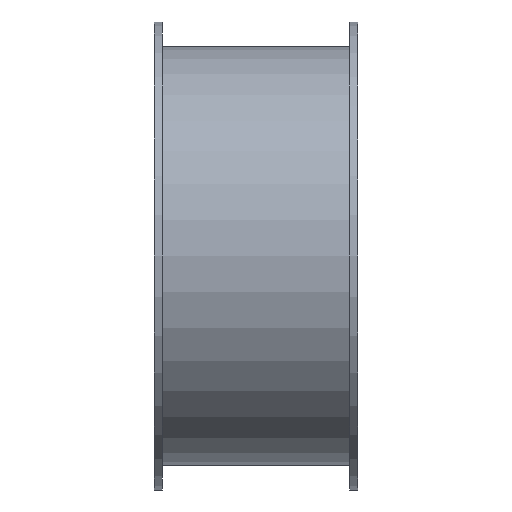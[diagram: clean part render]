
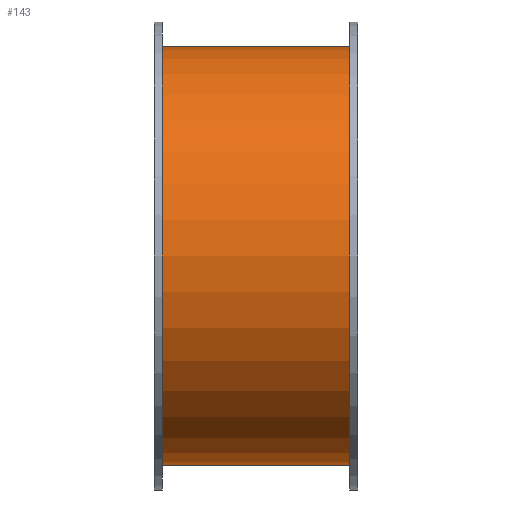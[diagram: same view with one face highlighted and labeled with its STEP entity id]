
A CAD part, front view. The second image highlights one B-rep face of the part: STEP entity #143.
In plain terms, the highlighted cylindrical face has radius 51.5 mm (diameter 103 mm), a full revolution.
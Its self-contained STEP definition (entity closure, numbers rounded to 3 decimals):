
#112=CARTESIAN_POINT('',(16.119,2.817,0.0));
#113=VERTEX_POINT('',#112);
#114=CARTESIAN_POINT('',(16.119,54.317,0.0));
#115=DIRECTION('',(-1.0,0.0,0.0));
#116=DIRECTION('',(0.0,-1.0,0.0));
#117=AXIS2_PLACEMENT_3D('',#114,#115,#116);
#118=CIRCLE('',#117,51.5);
#119=EDGE_CURVE('',#113,#113,#118,.T.);
#124=CARTESIAN_POINT('',(-6.881,54.317,0.0));
#125=DIRECTION('',(-1.0,0.,0.0));
#126=DIRECTION('',(0.0,-1.0,0.0));
#127=AXIS2_PLACEMENT_3D('',#124,#125,#126);
#128=CYLINDRICAL_SURFACE('',#127,51.5);
#129=CARTESIAN_POINT('',(-29.881,2.817,0.0));
#130=VERTEX_POINT('',#129);
#131=CARTESIAN_POINT('',(-29.881,54.317,0.0));
#132=DIRECTION('',(-1.0,0.0,0.0));
#133=DIRECTION('',(0.0,-1.0,0.0));
#134=AXIS2_PLACEMENT_3D('',#131,#132,#133);
#135=CIRCLE('',#134,51.5);
#136=EDGE_CURVE('',#130,#130,#135,.T.);
#137=ORIENTED_EDGE('',*,*,#136,.F.);
#138=EDGE_LOOP('',(#137));
#139=FACE_OUTER_BOUND('',#138,.T.);
#140=ORIENTED_EDGE('',*,*,#119,.T.);
#141=EDGE_LOOP('',(#140));
#142=FACE_BOUND('',#141,.T.);
#143=ADVANCED_FACE('',(#139,#142),#128,.T.);
